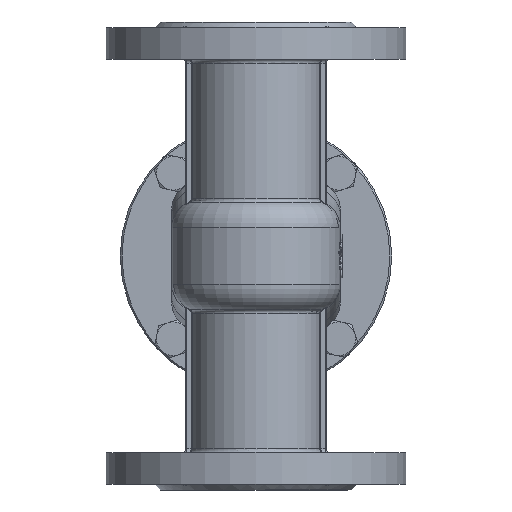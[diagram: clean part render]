
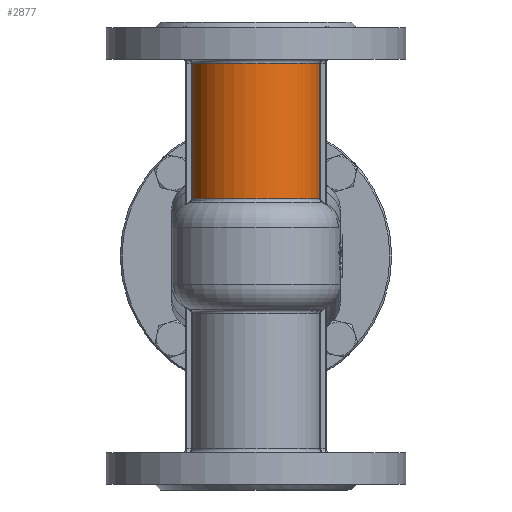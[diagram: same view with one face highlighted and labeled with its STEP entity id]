
A CAD part, front view. The second image highlights one B-rep face of the part: STEP entity #2877.
In plain terms, the highlighted cylindrical face has radius 35 mm (diameter 70 mm), a partial arc.
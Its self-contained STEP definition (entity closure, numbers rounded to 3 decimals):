
#2877=ADVANCED_FACE('',(#11196),#11198,.T.);
#11196=FACE_BOUND('',#11197,.T.);
#11197=EDGE_LOOP('',(#20087,#20088,#20089,#20090));
#11198=CYLINDRICAL_SURFACE('',#11199,35.);
#11199=AXIS2_PLACEMENT_3D('',#11200,#11201,#11202);
#11200=CARTESIAN_POINT('',(0.,0.,74.));
#11201=DIRECTION('',(0.,0.,1.));
#11202=DIRECTION('',(1.,0.,0.));
#20087=ORIENTED_EDGE('',*,*,#23570,.F.);
#20088=ORIENTED_EDGE('',*,*,#23571,.F.);
#20089=ORIENTED_EDGE('',*,*,#23399,.T.);
#20090=ORIENTED_EDGE('',*,*,#23572,.T.);
#23399=EDGE_CURVE('',#26053,#26055,#26057,.T.);
#23570=EDGE_CURVE('',#26342,#26343,#26344,.T.);
#23571=EDGE_CURVE('',#26053,#26342,#26345,.T.);
#23572=EDGE_CURVE('',#26055,#26343,#26346,.T.);
#26053=VERTEX_POINT('',#34911);
#26055=VERTEX_POINT('',#34928);
#26057=CIRCLE('',#34945,35.);
#26342=VERTEX_POINT('',#36661);
#26343=VERTEX_POINT('',#36662);
#26344=CIRCLE('',#36663,35.);
#26345=LINE('',#36667,#36668);
#26346=LINE('',#36670,#36671);
#34911=CARTESIAN_POINT('',(-34.1,-7.887,30.492));
#34928=CARTESIAN_POINT('',(34.1,-7.887,30.492));
#34945=AXIS2_PLACEMENT_3D('',#34946,#34947,#34948);
#34946=CARTESIAN_POINT('',(0.,0.,30.492));
#34947=DIRECTION('',(0.,0.,1.));
#34948=DIRECTION('',(-0.974,-0.225,0.));
#36661=CARTESIAN_POINT('',(-34.1,-7.887,103.));
#36662=CARTESIAN_POINT('',(34.1,-7.887,103.));
#36663=AXIS2_PLACEMENT_3D('',#36664,#36665,#36666);
#36664=CARTESIAN_POINT('',(0.,0.,103.));
#36665=DIRECTION('',(0.,0.,1.));
#36666=DIRECTION('',(-0.974,-0.225,0.));
#36667=CARTESIAN_POINT('',(-34.1,-7.887,30.492));
#36668=VECTOR('',#36669,1.);
#36669=DIRECTION('',(0.,0.,1.));
#36670=CARTESIAN_POINT('',(34.1,-7.887,30.492));
#36671=VECTOR('',#36672,1.);
#36672=DIRECTION('',(0.,0.,1.));
